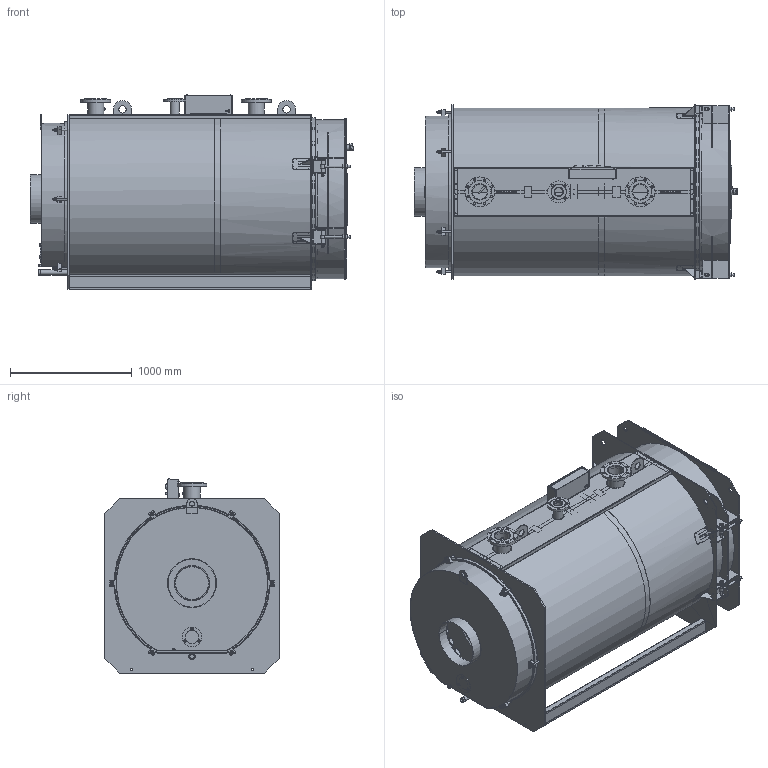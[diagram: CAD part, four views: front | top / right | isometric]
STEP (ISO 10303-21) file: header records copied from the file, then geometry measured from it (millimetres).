
FILE_DESCRIPTION(('STEP AP242'), '1');
FILE_NAME('TITAN Prom 4 (1000-1100 êÂò)', '', ('UNSPECIFIED'), ('UNSPECIFIED'), 'ASCON STEP Converter 1.6', 'ASCON Math Kernel', '');
FILE_SCHEMA(('AP242_MANAGED_MODEL_BASED_3D_ENGINEERING_MIM_LF { 1 0 10303 442 1 1 4 }'));
Length unit declared in the file: millimetre
Bounding box: 2659.04 x 1435 x 1598.16 mm (x, y, z)
Volume: 295792724.3 mm3; surface area: 42361923.7 mm2
Topology: 65 solids, 65 shells, 3362 faces, 8212 edges, 5230 vertices
Faces by surface type: plane 2013, cylinder 929, cone 286, bspline 98, torus 21, extrusion 9, sphere 6
Full cylindrical faces by diameter (mm): 2 x4, 2.8 x27, 3 x1, 3.5 x8, 3.6 x4, 4 x12, 4.1 x2, 4.5 x12, 4.8 x1, 5 x21, 6 x5, 7 x2, 7.6 x1, 8 x3, 9 x2, 9.25 x4, 9.728 x1, 10 x6, 10.5 x1, 11 x1, 12 x10, 13 x7, 13.835 x10, 14 x4, 14.5 x1, 15 x3, 15.7 x1, 16 x13, 17 x15, 18 x22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
Entity records: 170202 total; most frequent: CARTESIAN_POINT 65940, DIRECTION 15271, ORIENTED_EDGE 14886, EDGE_CURVE 7443, AXIS2_PLACEMENT_3D 5493, VERTEX_POINT 5222, EDGE_LOOP 4962, VECTOR 4285
